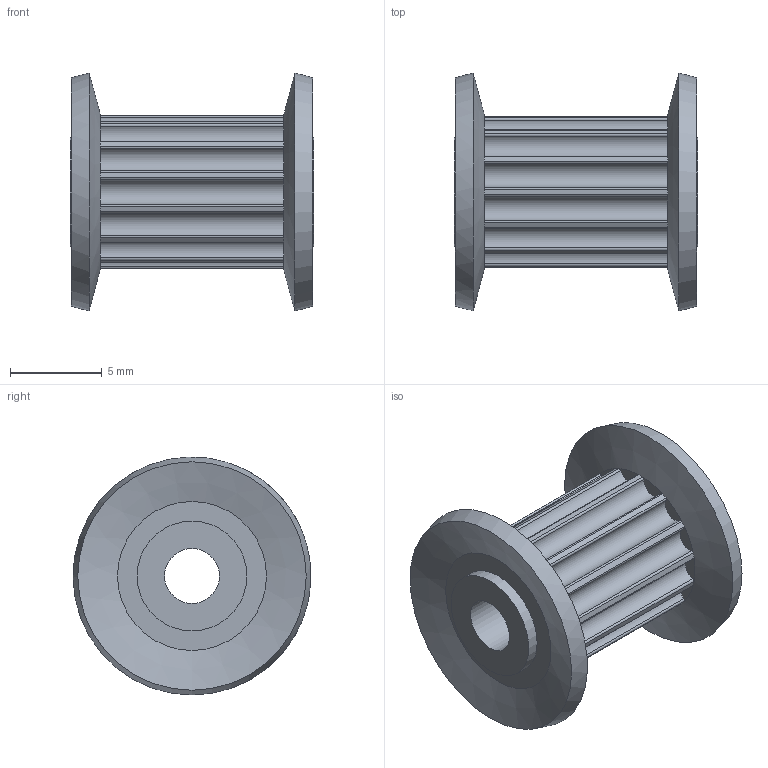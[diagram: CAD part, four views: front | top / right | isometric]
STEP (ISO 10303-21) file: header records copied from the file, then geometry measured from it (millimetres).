
FILE_DESCRIPTION( ( 'STEP AP203' ), '1' );
FILE_NAME( 'p:/temp/worker_2/temp/exporttempdir_5664_1535_TpcYF/format_0/GPA14GT2090-A-H3.stp', '2022-07-28T01:33:59', ( 'License CC BY-ND 4.0' ), ( 'CADENAS' ), ' ', 'PARTsolutions', ' ' );
FILE_SCHEMA( ( 'CONFIG_CONTROL_DESIGN' ) );
Length unit declared in the file: millimetre
Products named in the file (2): GPA14GT2090-A-H3; _GPA14GT2090-A-H3_b
Assembly tree (1 placements, depth 2):
  GPA14GT2090-A-H3
    _GPA14GT2090-A-H3_b
Bounding box: 13.3 x 13 x 13 mm (x, y, z)
Volume: 645.5 mm3; surface area: 1007.1 mm2
Topology: 1 solids, 1 shells, 97 faces, 219 edges, 126 vertices
Faces by surface type: cylinder 59, plane 32, cone 6
Full cylindrical faces by diameter (mm): 3 x1, 6 x2
Entity records: 2745 total; most frequent: DIRECTION 558, CARTESIAN_POINT 431, ORIENTED_EDGE 416, AXIS2_PLACEMENT_3D 251, EDGE_CURVE 208, CIRCLE 152, VERTEX_POINT 124, EDGE_LOOP 110
